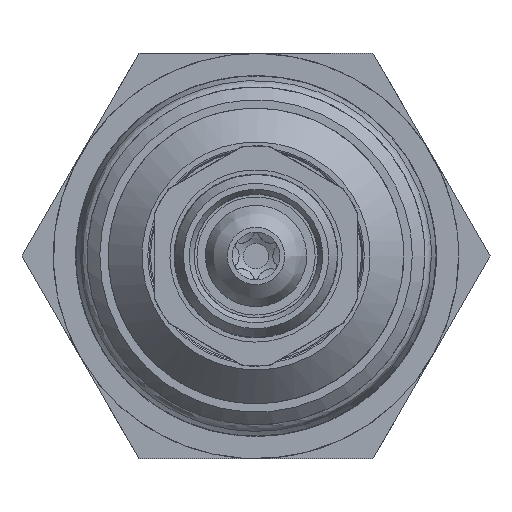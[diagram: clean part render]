
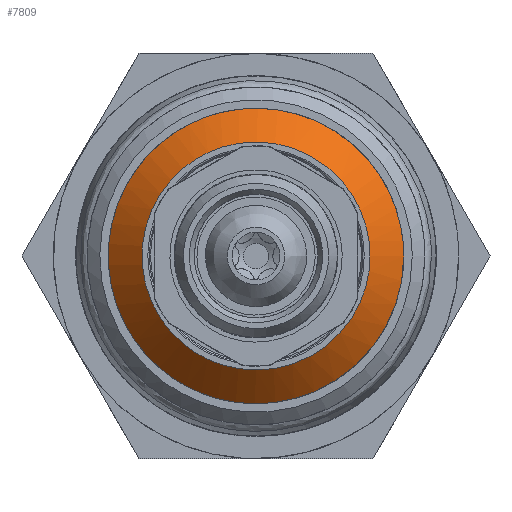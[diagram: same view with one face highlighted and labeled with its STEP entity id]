
A CAD part, front view. The second image highlights one B-rep face of the part: STEP entity #7809.
In plain terms, the highlighted free-form (B-spline) face has degree [2, 1] with [7, 2] control points.
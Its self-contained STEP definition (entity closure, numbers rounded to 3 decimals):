
#7734=CARTESIAN_POINT('V271',(6.75,-35.8,
   0.));
#7735=VERTEX_POINT('V271',#7734);
#7736=CARTESIAN_POINT('E399',(6.75,-35.8,
   0.));
#7737=CARTESIAN_POINT('E399',(6.75,-35.8,
   -11.691));
#7738=CARTESIAN_POINT('E399',(-3.375,-35.8,
   -5.846));
#7739=CARTESIAN_POINT('E399',(-13.5,
   -35.8,0.));
#7740=CARTESIAN_POINT('E399',(-3.375,-35.8,
   5.846));
#7741=CARTESIAN_POINT('E399',(6.75,-35.8,
   11.691));
#7742=CARTESIAN_POINT('E399',(6.75,-35.8,
   0.));
#7750=(BOUNDED_CURVE()B_SPLINE_CURVE(2,(#7736,#7737,#7738,#7739,
   #7740,#7741,#7742),.CIRCULAR_ARC.,.T.,.U.)
   B_SPLINE_CURVE_WITH_KNOTS((3,2,2,3),(0.0,9.492,
   18.984,28.475),.UNSPECIFIED.)CURVE()
   GEOMETRIC_REPRESENTATION_ITEM()RATIONAL_B_SPLINE_CURVE((1.0,
   0.5,1.0,0.5,1.0,0.5,1.0)
   )REPRESENTATION_ITEM('E399'));
#7751=EDGE_CURVE('E399',#7735,#7735,#7750,.T.);
#7759=CARTESIAN_POINT('F144',(6.75,-35.8,
   0.));
#7760=CARTESIAN_POINT('F144',(6.75,-35.8,
   -11.691));
#7761=CARTESIAN_POINT('F144',(-3.375,-35.8,
   -5.846));
#7762=CARTESIAN_POINT('F144',(-13.5,
   -35.8,0.));
#7763=CARTESIAN_POINT('F144',(-3.375,-35.8,
   5.846));
#7764=CARTESIAN_POINT('F144',(6.75,-35.8,
   11.691));
#7765=CARTESIAN_POINT('F144',(6.75,-35.8,
   0.));
#7766=CARTESIAN_POINT('F144',(8.75,-33.8,
   0.));
#7767=CARTESIAN_POINT('F144',(8.75,-33.8,
   -15.155));
#7768=CARTESIAN_POINT('F144',(-4.375,-33.8,
   -7.578));
#7769=CARTESIAN_POINT('F144',(-17.5,
   -33.8,0.));
#7770=CARTESIAN_POINT('F144',(-4.375,-33.8,
   7.578));
#7771=CARTESIAN_POINT('F144',(8.75,-33.8,
   15.155));
#7772=CARTESIAN_POINT('F144',(8.75,-33.8,
   0.));
#7780=(BOUNDED_SURFACE()B_SPLINE_SURFACE(2,1,((#7759,#7766),(
   #7760,#7767),(#7761,#7768),(#7762,#7769),(#7763,#7770),(
   #7764,#7771),(#7765,#7772)),.CONICAL_SURF.,.T.,.F.,.U.)
   B_SPLINE_SURFACE_WITH_KNOTS((3,2,2,3),(2,2),(0.0,
   9.492,18.984,28.475),(0.0,
   1.0),.UNSPECIFIED.)GEOMETRIC_REPRESENTATION_ITEM()
   RATIONAL_B_SPLINE_SURFACE(((1.0,1.0),(0.5,
   0.5),(1.0,1.0),(0.5,
   0.5),(1.0,1.0),(0.5,
   0.5),(1.0,1.0)))REPRESENTATION_ITEM('F144')
   SURFACE());
#7781=CARTESIAN_POINT('V270',(8.75,-33.8,
   0.));
#7782=VERTEX_POINT('V270',#7781);
#7783=CARTESIAN_POINT('E398',(8.75,-33.8,
   0.0));
#7784=CARTESIAN_POINT('E398',(6.75,-35.8,
   0.0));
#7785=QUASI_UNIFORM_CURVE('E398',1,(#7783,#7784),.POLYLINE_FORM.,.F.,
   .U.);
#7786=EDGE_CURVE('E398',#7782,#7735,#7785,.T.);
#7787=ORIENTED_EDGE('E398',*,*,#7786,.T.);
#7788=ORIENTED_EDGE('F145',*,*,#7751,.T.);
#7789=ORIENTED_EDGE('E398',*,*,#7786,.F.);
#7790=CARTESIAN_POINT('E397',(8.75,-33.8,
   0.));
#7791=CARTESIAN_POINT('E397',(8.75,-33.8,
   -15.155));
#7792=CARTESIAN_POINT('E397',(-4.375,-33.8,
   -7.578));
#7793=CARTESIAN_POINT('E397',(-17.5,
   -33.8,0.));
#7794=CARTESIAN_POINT('E397',(-4.375,-33.8,
   7.578));
#7795=CARTESIAN_POINT('E397',(8.75,-33.8,
   15.155));
#7796=CARTESIAN_POINT('E397',(8.75,-33.8,
   0.));
#7804=(BOUNDED_CURVE()B_SPLINE_CURVE(2,(#7790,#7791,#7792,#7793,
   #7794,#7795,#7796),.CIRCULAR_ARC.,.T.,.U.)
   B_SPLINE_CURVE_WITH_KNOTS((3,2,2,3),(0.0,60.622,
   121.244,181.865),.UNSPECIFIED.)CURVE()
   GEOMETRIC_REPRESENTATION_ITEM()RATIONAL_B_SPLINE_CURVE((1.0,
   0.5,1.0,0.5,1.0,0.5,1.0)
   )REPRESENTATION_ITEM('E397'));
#7805=EDGE_CURVE('E397',#7782,#7782,#7804,.T.);
#7806=ORIENTED_EDGE('E397',*,*,#7805,.F.);
#7807=EDGE_LOOP('F144',(#7787,#7788,#7789,#7806));
#7808=FACE_OUTER_BOUND('F144',#7807,.T.);
#7809=ADVANCED_FACE('F144',(#7808),#7780,.T.);
